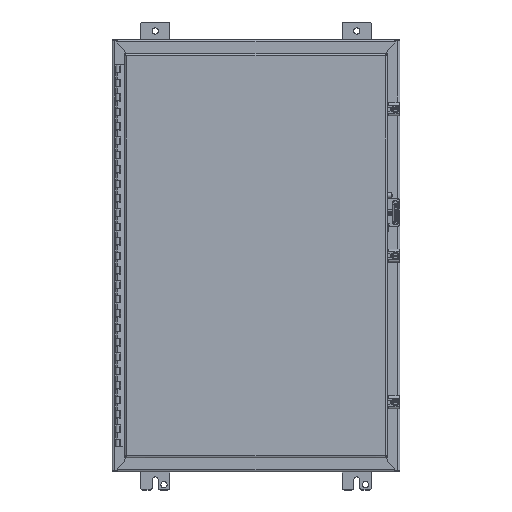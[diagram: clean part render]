
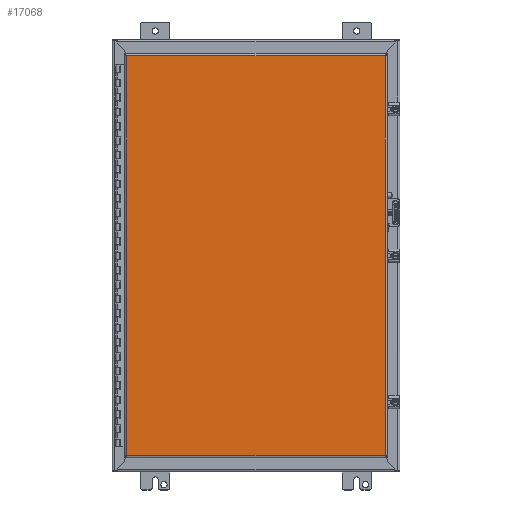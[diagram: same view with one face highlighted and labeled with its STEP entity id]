
A CAD part, top view. The second image highlights one B-rep face of the part: STEP entity #17068.
In plain terms, the highlighted planar face has unit normal (0, 0, 1) as drawn and (0, 1, 0) by its records, which use the part's own axes.
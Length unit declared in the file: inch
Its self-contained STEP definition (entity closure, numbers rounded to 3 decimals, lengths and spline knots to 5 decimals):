
#15461=DIRECTION('',(0.,0.,1.));
#15462=VECTOR('',#15461,17.96);
#15463=CARTESIAN_POINT('',(-13.88638,0.,0.145));
#15464=LINE('',#15463,#15462);
#15515=DIRECTION('',(0.,0.,1.));
#15516=VECTOR('',#15515,17.96);
#15517=CARTESIAN_POINT('',(13.88638,0.,0.145));
#15518=LINE('',#15517,#15516);
#15623=DIRECTION('',(-1.,0.,0.));
#15624=VECTOR('',#15623,27.77275);
#15625=CARTESIAN_POINT('',(13.88638,0.,0.145));
#15626=LINE('',#15625,#15624);
#16127=DIRECTION('',(-1.,0.,0.));
#16128=VECTOR('',#16127,27.77275);
#16129=CARTESIAN_POINT('',(13.88638,0.,18.105));
#16130=LINE('',#16129,#16128);
#16411=CARTESIAN_POINT('',(13.88638,0.,0.145));
#16412=CARTESIAN_POINT('',(-13.88638,0.,0.145));
#16413=VERTEX_POINT('',#16411);
#16414=VERTEX_POINT('',#16412);
#16415=CARTESIAN_POINT('',(13.88638,0.,18.105));
#16416=CARTESIAN_POINT('',(-13.88638,0.,18.105));
#16417=VERTEX_POINT('',#16415);
#16418=VERTEX_POINT('',#16416);
#17054=CARTESIAN_POINT('',(14.03138,0.,0.));
#17055=DIRECTION('',(0.,1.,0.));
#17056=DIRECTION('',(-1.,0.,0.));
#17057=AXIS2_PLACEMENT_3D('',#17054,#17055,#17056);
#17058=PLANE('',#17057);
#17060=ORIENTED_EDGE('',*,*,#17059,.T.);
#17062=ORIENTED_EDGE('',*,*,#17061,.T.);
#17063=ORIENTED_EDGE('',*,*,#17044,.F.);
#17065=ORIENTED_EDGE('',*,*,#17064,.F.);
#17066=EDGE_LOOP('',(#17060,#17062,#17063,#17065));
#17067=FACE_OUTER_BOUND('',#17066,.F.);
#17044=EDGE_CURVE('',#16414,#16418,#15464,.T.);
#17059=EDGE_CURVE('',#16413,#16417,#15518,.T.);
#17061=EDGE_CURVE('',#16417,#16418,#16130,.T.);
#17064=EDGE_CURVE('',#16413,#16414,#15626,.T.);
#17068=ADVANCED_FACE('',(#17067),#17058,.T.);
